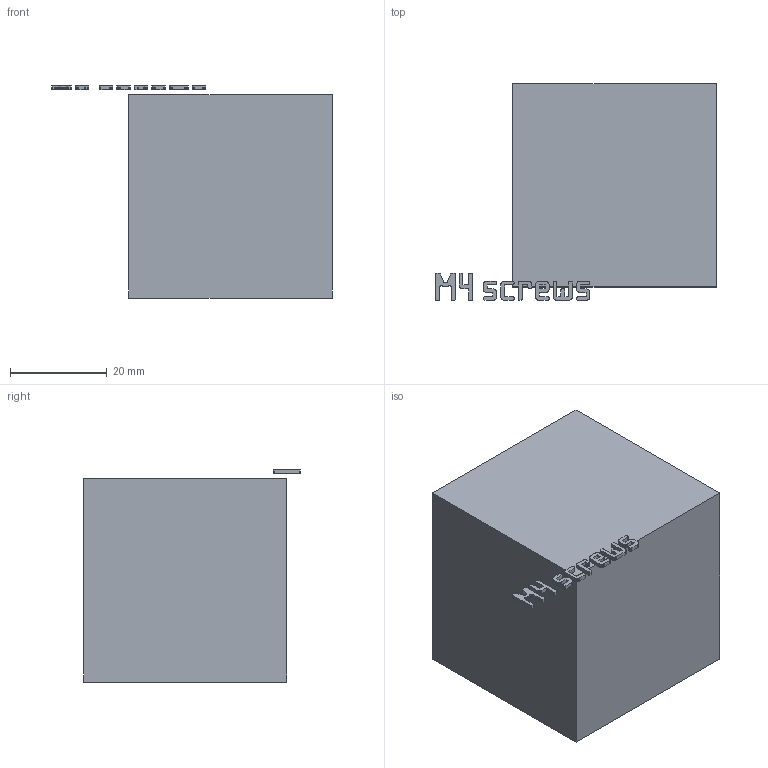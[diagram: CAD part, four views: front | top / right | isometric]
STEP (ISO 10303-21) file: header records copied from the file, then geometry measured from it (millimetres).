
FILE_DESCRIPTION(('Open CASCADE Model'),'2;1');
FILE_NAME('Open CASCADE Shape Model','2026-11-03T16:03:58',('Author'),( 'Open CASCADE'),'Open CASCADE STEP processor 8.0','build123d', 'Unknown');
FILE_SCHEMA(('AUTOMOTIVE_DESIGN { 1 0 10303 214 1 1 1 1 }'));
Products named in the file (1): COMPOUND
Bounding box: 57.92 x 44.8 x 43.8 mm (x, y, z)
Volume: 19266.8 mm3; surface area: 19504.3 mm2
Topology: 9 solids, 10 shells, 803 faces, 2349 edges, 1566 vertices
Faces by surface type: plane 803
Entity records: 56568 total; most frequent: CARTESIAN_POINT 9425, DIRECTION 8647, LINE 7039, VECTOR 7039, ORIENTED_EDGE 4698, PCURVE 4698, DEFINITIONAL_REPRESENTATION 4698, EDGE_CURVE 2349
